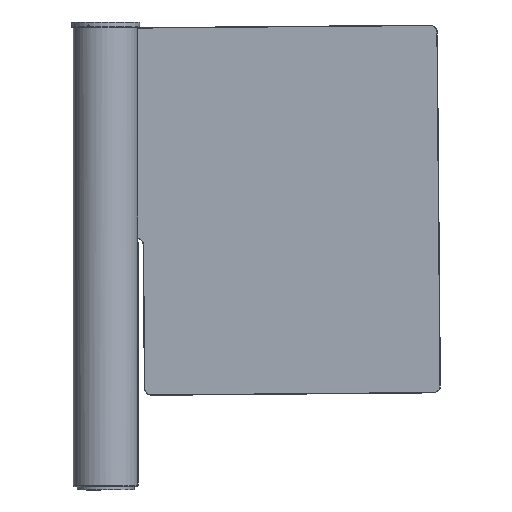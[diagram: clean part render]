
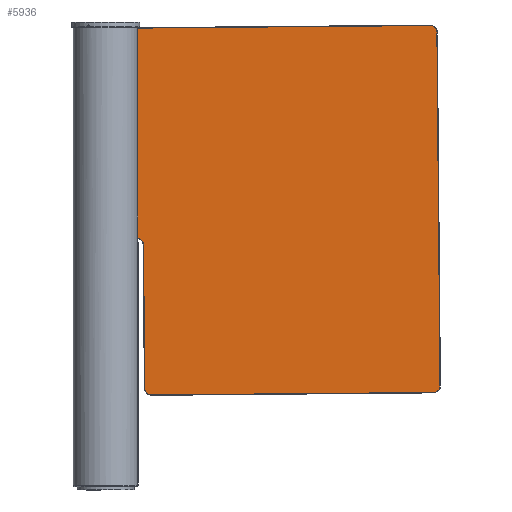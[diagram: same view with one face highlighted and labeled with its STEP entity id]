
A CAD part, front view. The second image highlights one B-rep face of the part: STEP entity #5936.
In plain terms, the highlighted planar face has unit normal (0, -1, 0) as drawn and (0, 0, -1) by its records, which use the part's own axes.
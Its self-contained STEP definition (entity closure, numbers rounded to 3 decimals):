
#417=LINE('',#9676,#934);
#418=LINE('',#9680,#935);
#419=LINE('',#9684,#936);
#420=LINE('',#9688,#937);
#421=LINE('',#9692,#938);
#422=LINE('',#9696,#939);
#934=VECTOR('',#7652,1000.);
#935=VECTOR('',#7655,1000.);
#936=VECTOR('',#7658,1000.);
#937=VECTOR('',#7661,1000.);
#938=VECTOR('',#7664,1000.);
#939=VECTOR('',#7667,1000.);
#2026=ORIENTED_EDGE('',*,*,#3458,.T.);
#2027=ORIENTED_EDGE('',*,*,#3459,.T.);
#2028=ORIENTED_EDGE('',*,*,#3460,.T.);
#2029=ORIENTED_EDGE('',*,*,#3461,.T.);
#2030=ORIENTED_EDGE('',*,*,#3462,.T.);
#2031=ORIENTED_EDGE('',*,*,#3463,.T.);
#2032=ORIENTED_EDGE('',*,*,#3464,.T.);
#2033=ORIENTED_EDGE('',*,*,#3465,.T.);
#2034=ORIENTED_EDGE('',*,*,#3466,.T.);
#2035=ORIENTED_EDGE('',*,*,#3467,.T.);
#2036=ORIENTED_EDGE('',*,*,#3468,.T.);
#2037=ORIENTED_EDGE('',*,*,#3469,.T.);
#2038=ORIENTED_EDGE('',*,*,#3470,.T.);
#2039=ORIENTED_EDGE('',*,*,#3471,.T.);
#2040=ORIENTED_EDGE('',*,*,#3472,.T.);
#2041=ORIENTED_EDGE('',*,*,#3473,.T.);
#3458=EDGE_CURVE('',#4202,#4203,#4571,.F.);
#3459=EDGE_CURVE('',#4203,#4204,#417,.T.);
#3460=EDGE_CURVE('',#4204,#4205,#4572,.T.);
#3461=EDGE_CURVE('',#4205,#4206,#418,.T.);
#3462=EDGE_CURVE('',#4206,#4207,#4573,.F.);
#3463=EDGE_CURVE('',#4207,#4208,#419,.T.);
#3464=EDGE_CURVE('',#4208,#4209,#4574,.F.);
#3465=EDGE_CURVE('',#4209,#4210,#420,.T.);
#3466=EDGE_CURVE('',#4210,#4211,#4575,.F.);
#3467=EDGE_CURVE('',#4211,#4212,#421,.T.);
#3468=EDGE_CURVE('',#4212,#4213,#4576,.F.);
#3469=EDGE_CURVE('',#4213,#4202,#422,.T.);
#3470=EDGE_CURVE('',#4214,#4214,#4577,.T.);
#3471=EDGE_CURVE('',#4215,#4215,#4578,.T.);
#3472=EDGE_CURVE('',#4216,#4216,#4579,.T.);
#3473=EDGE_CURVE('',#4217,#4217,#4580,.T.);
#4202=VERTEX_POINT('',#9674);
#4203=VERTEX_POINT('',#9675);
#4204=VERTEX_POINT('',#9677);
#4205=VERTEX_POINT('',#9679);
#4206=VERTEX_POINT('',#9681);
#4207=VERTEX_POINT('',#9683);
#4208=VERTEX_POINT('',#9685);
#4209=VERTEX_POINT('',#9687);
#4210=VERTEX_POINT('',#9689);
#4211=VERTEX_POINT('',#9691);
#4212=VERTEX_POINT('',#9693);
#4213=VERTEX_POINT('',#9695);
#4214=VERTEX_POINT('',#9698);
#4215=VERTEX_POINT('',#9700);
#4216=VERTEX_POINT('',#9702);
#4217=VERTEX_POINT('',#9704);
#4571=CIRCLE('',#6701,14.);
#4572=CIRCLE('',#6702,16.);
#4573=CIRCLE('',#6703,14.);
#4574=CIRCLE('',#6704,14.);
#4575=CIRCLE('',#6705,14.);
#4576=CIRCLE('',#6706,14.);
#4577=CIRCLE('',#6707,7.);
#4578=CIRCLE('',#6708,7.);
#4579=CIRCLE('',#6709,7.);
#4580=CIRCLE('',#6710,7.);
#4842=EDGE_LOOP('',(#2026,#2027,#2028,#2029,#2030,#2031,#2032,#2033,#2034,
#2035,#2036,#2037));
#4843=EDGE_LOOP('',(#2038));
#4844=EDGE_LOOP('',(#2039));
#4845=EDGE_LOOP('',(#2040));
#4846=EDGE_LOOP('',(#2041));
#5312=FACE_BOUND('',#4842,.T.);
#5313=FACE_BOUND('',#4843,.T.);
#5314=FACE_BOUND('',#4844,.T.);
#5315=FACE_BOUND('',#4845,.T.);
#5316=FACE_BOUND('',#4846,.T.);
#5689=PLANE('',#6700);
#5936=ADVANCED_FACE('',(#5312,#5313,#5314,#5315,#5316),#5689,.F.);
#6700=AXIS2_PLACEMENT_3D('',#9672,#7648,#7649);
#6701=AXIS2_PLACEMENT_3D('',#9673,#7650,#7651);
#6702=AXIS2_PLACEMENT_3D('',#9678,#7653,#7654);
#6703=AXIS2_PLACEMENT_3D('',#9682,#7656,#7657);
#6704=AXIS2_PLACEMENT_3D('',#9686,#7659,#7660);
#6705=AXIS2_PLACEMENT_3D('',#9690,#7662,#7663);
#6706=AXIS2_PLACEMENT_3D('',#9694,#7665,#7666);
#6707=AXIS2_PLACEMENT_3D('',#9697,#7668,#7669);
#6708=AXIS2_PLACEMENT_3D('',#9699,#7670,#7671);
#6709=AXIS2_PLACEMENT_3D('',#9701,#7672,#7673);
#6710=AXIS2_PLACEMENT_3D('',#9703,#7674,#7675);
#7648=DIRECTION('',(0.,0.,1.));
#7649=DIRECTION('',(1.,0.,0.));
#7650=DIRECTION('',(0.,0.,1.));
#7651=DIRECTION('',(1.,0.,0.));
#7652=DIRECTION('',(-1.,0.,0.));
#7653=DIRECTION('',(0.,0.,1.));
#7654=DIRECTION('',(1.,0.,0.));
#7655=DIRECTION('',(0.,-1.,0.));
#7656=DIRECTION('',(0.,0.,1.));
#7657=DIRECTION('',(1.,0.,0.));
#7658=DIRECTION('',(-1.,0.,0.));
#7659=DIRECTION('',(0.,0.,1.));
#7660=DIRECTION('',(1.,0.,0.));
#7661=DIRECTION('',(0.,1.,0.));
#7662=DIRECTION('',(0.,0.,1.));
#7663=DIRECTION('',(1.,0.,0.));
#7664=DIRECTION('',(1.,0.,0.));
#7665=DIRECTION('',(0.,0.,1.));
#7666=DIRECTION('',(1.,0.,0.));
#7667=DIRECTION('',(0.,-1.,0.));
#7668=DIRECTION('',(0.,0.,1.));
#7669=DIRECTION('',(1.,0.,0.));
#7670=DIRECTION('',(0.,0.,1.));
#7671=DIRECTION('',(1.,0.,0.));
#7672=DIRECTION('',(0.,0.,1.));
#7673=DIRECTION('',(1.,0.,0.));
#7674=DIRECTION('',(0.,0.,1.));
#7675=DIRECTION('',(1.,0.,0.));
#9672=CARTESIAN_POINT('',(-967.,455.,0.));
#9673=CARTESIAN_POINT('',(-197.,15.,0.));
#9674=CARTESIAN_POINT('',(-183.,15.,0.));
#9675=CARTESIAN_POINT('',(-197.,1.,0.));
#9676=CARTESIAN_POINT('',(-967.,1.,0.));
#9677=CARTESIAN_POINT('',(-312.,1.,0.));
#9678=CARTESIAN_POINT('',(-312.,-15.,0.));
#9679=CARTESIAN_POINT('',(-328.,-15.,0.));
#9680=CARTESIAN_POINT('',(-328.,455.,0.));
#9681=CARTESIAN_POINT('',(-328.,-325.,0.));
#9682=CARTESIAN_POINT('',(-342.,-325.,0.));
#9683=CARTESIAN_POINT('',(-342.,-339.,0.));
#9684=CARTESIAN_POINT('',(-967.,-339.,0.));
#9685=CARTESIAN_POINT('',(-952.,-339.,0.));
#9686=CARTESIAN_POINT('',(-952.,-325.,0.));
#9687=CARTESIAN_POINT('',(-966.,-325.,0.));
#9688=CARTESIAN_POINT('',(-966.,455.,0.));
#9689=CARTESIAN_POINT('',(-966.,440.,0.));
#9690=CARTESIAN_POINT('',(-952.,440.,0.));
#9691=CARTESIAN_POINT('',(-952.,454.,0.));
#9692=CARTESIAN_POINT('',(-967.,454.,0.));
#9693=CARTESIAN_POINT('',(-197.,454.,0.));
#9694=CARTESIAN_POINT('',(-197.,440.,0.));
#9695=CARTESIAN_POINT('',(-183.,440.,0.));
#9696=CARTESIAN_POINT('',(-183.,455.,0.));
#9697=CARTESIAN_POINT('',(-222.,55.,0.));
#9698=CARTESIAN_POINT('',(-215.,55.,0.));
#9699=CARTESIAN_POINT('',(-292.,55.,0.));
#9700=CARTESIAN_POINT('',(-285.,55.,0.));
#9701=CARTESIAN_POINT('',(-292.,230.,0.));
#9702=CARTESIAN_POINT('',(-285.,230.,0.));
#9703=CARTESIAN_POINT('',(-222.,405.,0.));
#9704=CARTESIAN_POINT('',(-215.,405.,0.));
